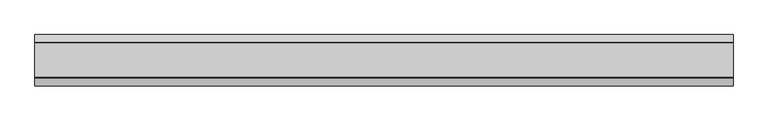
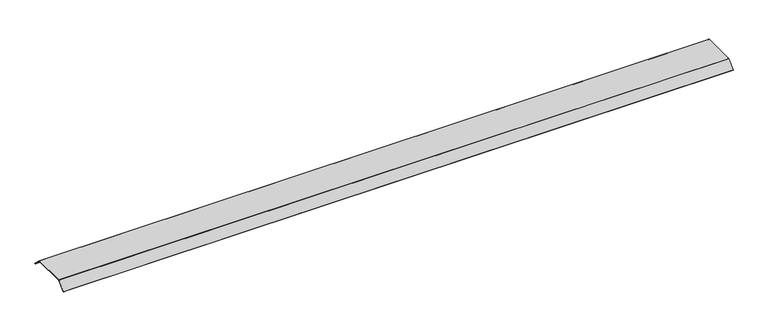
"""IFC4 building model written with IfcOpenShell, lengths in millimetres: proxy geometry, Electrical_Installation_Hager_Blank-Cover-800mm-Double-Sided-Height-70mm : Electrical_Installation_Hager_Blank-Cover-800mm-Double-Sided-Height-70mm."""

from ifc_helpers import new_model, si_unit, point, frame, frame_2d, origin, place, context, project, spatial, polyline, circle_curve, trimmed, segment, composite_curve, outline, extrude, source, transform, mapped, element, save


def electrical_fixtures_cfb3ead2(model_context):
    return source(origin(), model_context, "Body", "SweptSolid", [
        extrude(outline(composite_curve([segment(trimmed(circle_curve(frame_2d((150.0, 36.5)), 4.0), [point((150.0, 40.5))], [point((152.8284271, 39.3284271))], False, "CARTESIAN"), True, "CONTINUOUS"), segment(polyline([(152.8284271, 39.3284271), (220.78408, -28.6272257), (218.6627596, -30.7485461), (150.996177, 36.9180366)]), True, "CONTINUOUS"), segment(trimmed(circle_curve(frame_2d((149.591193, 35.5130527)), 1.9869473), [point((150.996177, 36.9180366))], [point((149.591193, 37.5))], True, "CARTESIAN"), True, "CONTINUOUS"), segment(polyline([(149.591193, 37.5), (-149.8229541, 37.5)]), True, "CONTINUOUS"), segment(trimmed(circle_curve(frame_2d((-149.8229541, 36.0725733)), 1.4274267), [point((-149.8229541, 37.5))], [point((-150.8322972, 37.0819164))], True, "CARTESIAN"), True, "CONTINUOUS"), segment(polyline([(-150.8322972, 37.0819164), (-218.6627596, -30.7485461), (-220.78408, -28.6272257), (-152.8206472, 39.336207)]), True, "CONTINUOUS"), segment(trimmed(circle_curve(frame_2d((-150.0110025, 36.5265623)), 3.9734377), [point((-152.8206472, 39.336207))], [point((-150.0110025, 40.5))], False, "CARTESIAN"), True, "CONTINUOUS"), segment(polyline([(-150.0110025, 40.5), (150.0, 40.5)]), True, "CONTINUOUS")], self_intersect=False)), frame((0.0, 0.0, 0.0), z_axis=(1.0, 0.0, 0.0), x_axis=(0.0, 1.0, 0.0)), (0.0, 0.0, 1.0), 6011.6956759),
    ])


if __name__ == "__main__":
    model = new_model("IFC4")
    model_context = context("Model", 3, world=origin())
    ifc_project = project(units=[si_unit("LENGTHUNIT", "METRE", prefix="MILLI")], contexts=[model_context])
    site = spatial("IfcSite", under=ifc_project)
    building = spatial("IfcBuilding", under=site)
    placement = place(None, origin())
    electrical_fixtures_shape = electrical_fixtures_cfb3ead2(model_context)
    element("IfcBuildingElementProxy", 1, Name="Electrical_Installation_Hager_Blank-Cover-800mm-Double-Sided-Height-70mm : Electrical_Installation_Hager_Blank-Cover-800mm-Double-Sided-Height-70mm", ObjectType="Electrical_Installation_Hager_Blank-Cover-800mm-Double-Sided-Height-70mm : Electrical_Installation_Hager_Blank-Cover-800mm-Double-Sided-Height-70mm", at=placement, inside=building, context=model_context, shape_type="MappedRepresentation", body=[
        mapped(electrical_fixtures_shape, transform((0.0, 0.0, 0.0), x_axis=(1.0, 0.0, 0.0), y_axis=(0.0, 1.0, 0.0), z_axis=(0.0, 0.0, 1.0))),
    ])
    save(model, "model.ifc")
